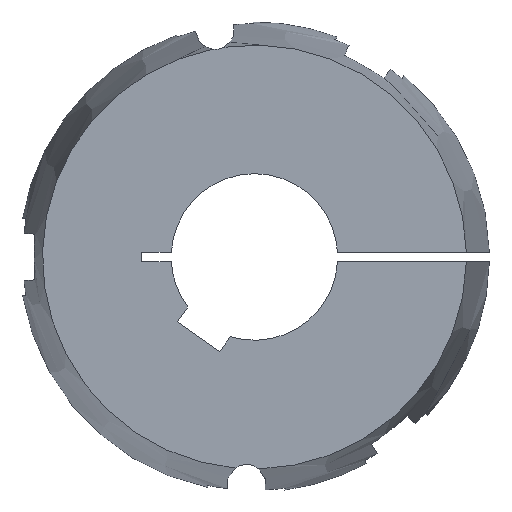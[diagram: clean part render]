
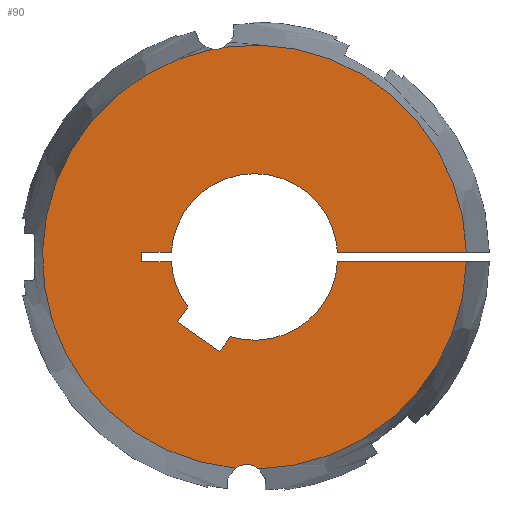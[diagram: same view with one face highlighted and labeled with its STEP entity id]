
A CAD part, left-side view. The second image highlights one B-rep face of the part: STEP entity #90.
In plain terms, the highlighted planar face has unit normal (-1, 0, 0).
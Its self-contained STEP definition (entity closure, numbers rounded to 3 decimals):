
#90 = ADVANCED_FACE( '', ( #140 ), #141, .F. );
#140 = FACE_OUTER_BOUND( '', #208, .T. );
#141 = PLANE( '', #209 );
#208 = EDGE_LOOP( '', ( #369, #370, #371, #372, #373, #374, #375, #376, #377, #378, #379, #380, #381, #382, #383, #384 ) );
#209 = AXIS2_PLACEMENT_3D( '', #385, #386, #387 );
#369 = ORIENTED_EDGE( '', *, *, #548, .F. );
#370 = ORIENTED_EDGE( '', *, *, #601, .F. );
#371 = ORIENTED_EDGE( '', *, *, #570, .T. );
#372 = ORIENTED_EDGE( '', *, *, #583, .T. );
#373 = ORIENTED_EDGE( '', *, *, #581, .T. );
#374 = ORIENTED_EDGE( '', *, *, #578, .T. );
#375 = ORIENTED_EDGE( '', *, *, #587, .T. );
#376 = ORIENTED_EDGE( '', *, *, #602, .T. );
#377 = ORIENTED_EDGE( '', *, *, #603, .T. );
#378 = ORIENTED_EDGE( '', *, *, #604, .T. );
#379 = ORIENTED_EDGE( '', *, *, #605, .T. );
#380 = ORIENTED_EDGE( '', *, *, #606, .T. );
#381 = ORIENTED_EDGE( '', *, *, #572, .T. );
#382 = ORIENTED_EDGE( '', *, *, #607, .F. );
#383 = ORIENTED_EDGE( '', *, *, #551, .F. );
#384 = ORIENTED_EDGE( '', *, *, #608, .F. );
#385 = CARTESIAN_POINT( '', ( -89., 0., 0. ) );
#386 = DIRECTION( '', ( 1., 0., 0. ) );
#387 = DIRECTION( '', ( 0., 1., 0. ) );
#548 = EDGE_CURVE( '', #649, #651, #652, .F. );
#551 = EDGE_CURVE( '', #655, #657, #658, .F. );
#570 = EDGE_CURVE( '', #693, #691, #694, .T. );
#572 = EDGE_CURVE( '', #696, #697, #698, .T. );
#578 = EDGE_CURVE( '', #709, #707, #710, .T. );
#581 = EDGE_CURVE( '', #714, #709, #715, .T. );
#583 = EDGE_CURVE( '', #691, #714, #717, .T. );
#587 = EDGE_CURVE( '', #707, #721, #723, .T. );
#601 = EDGE_CURVE( '', #693, #649, #745, .T. );
#602 = EDGE_CURVE( '', #721, #746, #747, .T. );
#603 = EDGE_CURVE( '', #746, #748, #749, .T. );
#604 = EDGE_CURVE( '', #748, #750, #751, .T. );
#605 = EDGE_CURVE( '', #750, #752, #753, .T. );
#606 = EDGE_CURVE( '', #752, #696, #754, .T. );
#607 = EDGE_CURVE( '', #657, #697, #755, .T. );
#608 = EDGE_CURVE( '', #651, #655, #756, .T. );
#649 = VERTEX_POINT( '', #815 );
#651 = VERTEX_POINT( '', #828 );
#652 = CIRCLE( '', #829, 5.25 );
#655 = VERTEX_POINT( '', #843 );
#657 = VERTEX_POINT( '', #861 );
#658 = CIRCLE( '', #862, 5.25 );
#691 = VERTEX_POINT( '', #935 );
#693 = VERTEX_POINT( '', #938 );
#694 = LINE( '', #939, #940 );
#696 = VERTEX_POINT( '', #948 );
#697 = VERTEX_POINT( '', #949 );
#698 = LINE( '', #950, #951 );
#707 = VERTEX_POINT( '', #969 );
#709 = VERTEX_POINT( '', #972 );
#710 = LINE( '', #973, #974 );
#714 = VERTEX_POINT( '', #980 );
#715 = LINE( '', #981, #982 );
#717 = CIRCLE( '', #985, 22.5 );
#721 = VERTEX_POINT( '', #990 );
#723 = LINE( '', #993, #994 );
#745 = CIRCLE( '', #1019, 57.277 );
#746 = VERTEX_POINT( '', #1020 );
#747 = CIRCLE( '', #1021, 22.5 );
#748 = VERTEX_POINT( '', #1022 );
#749 = LINE( '', #1023, #1024 );
#750 = VERTEX_POINT( '', #1025 );
#751 = LINE( '', #1026, #1027 );
#752 = VERTEX_POINT( '', #1028 );
#753 = LINE( '', #1029, #1030 );
#754 = CIRCLE( '', #1031, 22.5 );
#755 = CIRCLE( '', #1032, 57.277 );
#756 = CIRCLE( '', #1033, 57.277 );
#815 = CARTESIAN_POINT( '', ( -89., -1.169, -57.265 ) );
#828 = CARTESIAN_POINT( '', ( -89., 5.158, -57.044 ) );
#829 = AXIS2_PLACEMENT_3D( '', #1193, #1194, #1195 );
#843 = CARTESIAN_POINT( '', ( -89., 11.362, 56.138 ) );
#861 = CARTESIAN_POINT( '', ( -89., 8.229, 56.682 ) );
#862 = AXIS2_PLACEMENT_3D( '', #1196, #1197, #1198 );
#935 = CARTESIAN_POINT( '', ( -89., -22.465, -1.25 ) );
#938 = CARTESIAN_POINT( '', ( -89., -57.263, -1.25 ) );
#939 = CARTESIAN_POINT( '', ( -89., -63.5, -1.25 ) );
#940 = VECTOR( '', #1228, 1000. );
#948 = CARTESIAN_POINT( '', ( -89., -22.465, 1.25 ) );
#949 = CARTESIAN_POINT( '', ( -89., -57.263, 1.25 ) );
#950 = CARTESIAN_POINT( '', ( -89., 0., 1.25 ) );
#951 = VECTOR( '', #1229, 1000. );
#969 = CARTESIAN_POINT( '', ( -89., 20.819, -17.529 ) );
#972 = CARTESIAN_POINT( '', ( -89., 9.351, -25.559 ) );
#973 = CARTESIAN_POINT( '', ( -89., 9.351, -25.559 ) );
#974 = VECTOR( '', #1234, 1000. );
#980 = CARTESIAN_POINT( '', ( -89., 6.531, -21.531 ) );
#981 = CARTESIAN_POINT( '', ( -89., 6.531, -21.531 ) );
#982 = VECTOR( '', #1237, 1000. );
#985 = AXIS2_PLACEMENT_3D( '', #1239, #1240, #1241 );
#990 = CARTESIAN_POINT( '', ( -89., 17.999, -13.501 ) );
#993 = CARTESIAN_POINT( '', ( -89., 20.819, -17.529 ) );
#994 = VECTOR( '', #1247, 1000. );
#1019 = AXIS2_PLACEMENT_3D( '', #1281, #1282, #1283 );
#1020 = CARTESIAN_POINT( '', ( -89., 22.465, -1.25 ) );
#1021 = AXIS2_PLACEMENT_3D( '', #1284, #1285, #1286 );
#1022 = CARTESIAN_POINT( '', ( -89., 30.5, -1.25 ) );
#1023 = CARTESIAN_POINT( '', ( -89., 0., -1.25 ) );
#1024 = VECTOR( '', #1287, 1000. );
#1025 = CARTESIAN_POINT( '', ( -89., 30.5, 1.25 ) );
#1026 = CARTESIAN_POINT( '', ( -89., 30.5, -1.25 ) );
#1027 = VECTOR( '', #1288, 1000. );
#1028 = CARTESIAN_POINT( '', ( -89., 22.465, 1.25 ) );
#1029 = CARTESIAN_POINT( '', ( -89., 30.5, 1.25 ) );
#1030 = VECTOR( '', #1289, 1000. );
#1031 = AXIS2_PLACEMENT_3D( '', #1290, #1291, #1292 );
#1032 = AXIS2_PLACEMENT_3D( '', #1293, #1294, #1295 );
#1033 = AXIS2_PLACEMENT_3D( '', #1296, #1297, #1298 );
#1193 = CARTESIAN_POINT( '', ( -89., 2.141, -61.34 ) );
#1194 = DIRECTION( '', ( 1., 0., 0. ) );
#1195 = DIRECTION( '', ( 0., 1., 0. ) );
#1196 = CARTESIAN_POINT( '', ( -89., 10.652, 61.34 ) );
#1197 = DIRECTION( '', ( 1., 0., 0. ) );
#1198 = DIRECTION( '', ( 0., 1., 0. ) );
#1228 = DIRECTION( '', ( 0., 1., 0. ) );
#1229 = DIRECTION( '', ( 0., -1., 0. ) );
#1234 = DIRECTION( '', ( 0., 0.819, 0.574 ) );
#1237 = DIRECTION( '', ( 0., 0.574, -0.819 ) );
#1239 = CARTESIAN_POINT( '', ( -89., 0., 0. ) );
#1240 = DIRECTION( '', ( 1., 0., 0. ) );
#1241 = DIRECTION( '', ( 0., 0., -1. ) );
#1247 = DIRECTION( '', ( 0., -0.574, 0.819 ) );
#1281 = CARTESIAN_POINT( '', ( -89., 0., 0. ) );
#1282 = DIRECTION( '', ( 1., 0., 0. ) );
#1283 = DIRECTION( '', ( 0., 1., 0. ) );
#1284 = CARTESIAN_POINT( '', ( -89., 0., 0. ) );
#1285 = DIRECTION( '', ( 1., 0., 0. ) );
#1286 = DIRECTION( '', ( 0., 0., -1. ) );
#1287 = DIRECTION( '', ( 0., 1., 0. ) );
#1288 = DIRECTION( '', ( 0., 0., 1. ) );
#1289 = DIRECTION( '', ( 0., -1., 0. ) );
#1290 = CARTESIAN_POINT( '', ( -89., 0., 0. ) );
#1291 = DIRECTION( '', ( 1., 0., 0. ) );
#1292 = DIRECTION( '', ( 0., 0., -1. ) );
#1293 = CARTESIAN_POINT( '', ( -89., 0., 0. ) );
#1294 = DIRECTION( '', ( 1., 0., 0. ) );
#1295 = DIRECTION( '', ( 0., 1., 0. ) );
#1296 = CARTESIAN_POINT( '', ( -89., 0., 0. ) );
#1297 = DIRECTION( '', ( 1., 0., 0. ) );
#1298 = DIRECTION( '', ( 0., 1., 0. ) );
